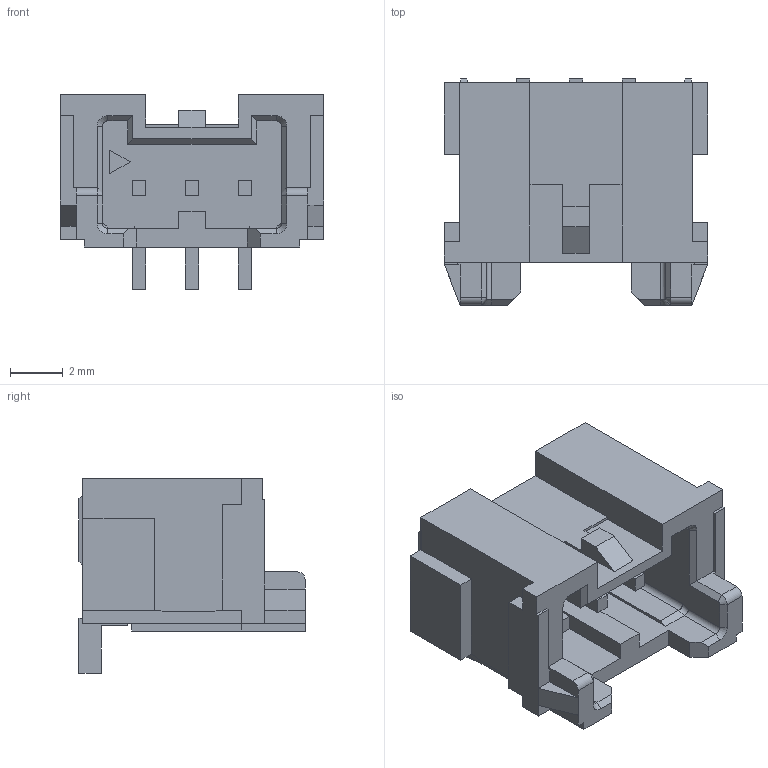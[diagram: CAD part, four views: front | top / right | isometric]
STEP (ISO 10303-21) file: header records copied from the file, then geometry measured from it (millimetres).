
FILE_DESCRIPTION(/* description */ (''),/* implementation_level */ '2;1');
FILE_NAME(/* name */ '5055750371wbm000_02_214.stp',/* time_stamp */ '2023-12-14T12:55:41+05:00',/* author */ (''),/* organization */ (''),/* preprocessor_version */ 'ST-DEVELOPER v16.7',/* originating_system */ 'SIEMENS PLM Software NX 1919',/* authorisation */ '');
FILE_SCHEMA (('AUTOMOTIVE_DESIGN { 1 0 10303 214 3 1 1 1 }'));
Length unit declared in the file: millimetre
Products named in the file (1): 5055750371wbm000_02
Bounding box: 10 x 8.6 x 7.41 mm (x, y, z)
Volume: 250.6 mm3; surface area: 513.3 mm2
Topology: 1 solids, 1 shells, 184 faces, 492 edges, 316 vertices
Faces by surface type: plane 168, cylinder 10, cone 6
Entity records: 5614 total; most frequent: CARTESIAN_POINT 993, ORIENTED_EDGE 984, DIRECTION 884, EDGE_CURVE 492, LINE 470, VECTOR 470, VERTEX_POINT 316, AXIS2_PLACEMENT_3D 207
